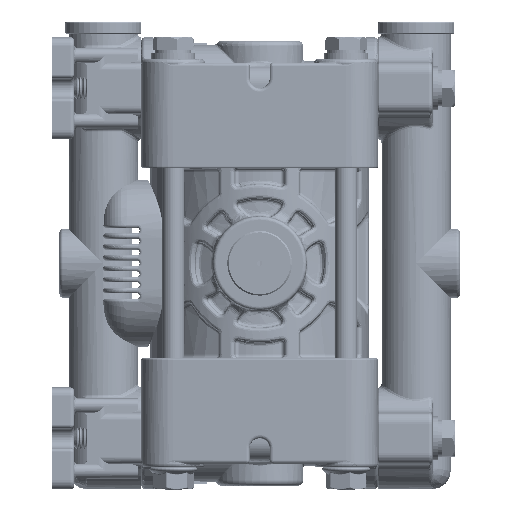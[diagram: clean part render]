
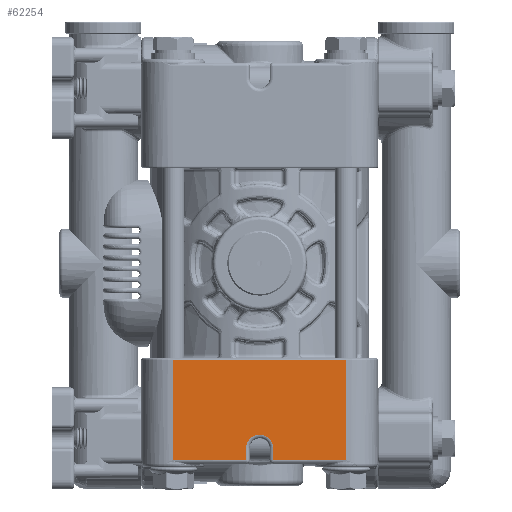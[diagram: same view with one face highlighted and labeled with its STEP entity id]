
A CAD part, left-side view. The second image highlights one B-rep face of the part: STEP entity #62254.
In plain terms, the highlighted planar face has unit normal (-1, 0, 0).
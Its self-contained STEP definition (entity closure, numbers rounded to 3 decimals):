
#1357 = EDGE_CURVE ( 'NONE', #75821, #175324, #36609, .T. ) ;
#1764 = CARTESIAN_POINT ( 'NONE',  ( -32.5, 3.75, -50.85 ) ) ;
#2046 = DIRECTION ( 'NONE',  ( 0., 0., -1. ) ) ;
#4058 = VERTEX_POINT ( 'NONE', #17253 ) ;
#7299 = CARTESIAN_POINT ( 'NONE',  ( -32.5, 0., -50.85 ) ) ;
#10914 = AXIS2_PLACEMENT_3D ( 'NONE', #7299, #79327, #156007 ) ;
#11989 = VECTOR ( 'NONE', #151347, 1000. ) ;
#17253 = CARTESIAN_POINT ( 'NONE',  ( -32.5, 23.75, -26.6 ) ) ;
#19094 = CARTESIAN_POINT ( 'NONE',  ( -32.5, -32.5, -61.1 ) ) ;
#19104 = AXIS2_PLACEMENT_3D ( 'NONE', #118960, #102723, #57633 ) ;
#23090 = EDGE_CURVE ( 'NONE', #157006, #189037, #83542, .T. ) ;
#26835 = DIRECTION ( 'NONE',  ( 0., 0., 1. ) ) ;
#30868 = ORIENTED_EDGE ( 'NONE', *, *, #139624, .T. ) ;
#31871 = LINE ( 'NONE', #135432, #90113 ) ;
#33908 = EDGE_CURVE ( 'NONE', #91472, #56805, #176366, .T. ) ;
#34428 = DIRECTION ( 'NONE',  ( 0., 0., 1. ) ) ;
#35374 = LINE ( 'NONE', #148608, #165968 ) ;
#36609 = LINE ( 'NONE', #82688, #93724 ) ;
#37044 = ORIENTED_EDGE ( 'NONE', *, *, #1357, .T. ) ;
#44199 = ORIENTED_EDGE ( 'NONE', *, *, #167784, .T. ) ;
#46208 = ORIENTED_EDGE ( 'NONE', *, *, #127460, .T. ) ;
#46918 = DIRECTION ( 'NONE',  ( 0., -1., 0. ) ) ;
#56805 = VERTEX_POINT ( 'NONE', #111607 ) ;
#56866 = VECTOR ( 'NONE', #2046, 1000. ) ;
#57633 = DIRECTION ( 'NONE',  ( 0., 0., 1. ) ) ;
#61974 = CIRCLE ( 'NONE', #19104, 3.75 ) ;
#62254 = ADVANCED_FACE ( 'NONE', ( #138001 ), #118870, .F. ) ;
#66039 = CARTESIAN_POINT ( 'NONE',  ( -32.5, -23.75, -26.6 ) ) ;
#73708 = CARTESIAN_POINT ( 'NONE',  ( -32.5, -3.75, -50.85 ) ) ;
#73829 = LINE ( 'NONE', #103550, #110872 ) ;
#75821 = VERTEX_POINT ( 'NONE', #149934 ) ;
#76613 = VERTEX_POINT ( 'NONE', #144700 ) ;
#79327 = DIRECTION ( 'NONE',  ( 1., 0., 0. ) ) ;
#80809 = DIRECTION ( 'NONE',  ( 0., -1., 0. ) ) ;
#82688 = CARTESIAN_POINT ( 'NONE',  ( -32.5, 2.75, -54.1 ) ) ;
#83542 = LINE ( 'NONE', #158324, #167676 ) ;
#90113 = VECTOR ( 'NONE', #121987, 1000. ) ;
#91472 = VERTEX_POINT ( 'NONE', #1764 ) ;
#92627 = ORIENTED_EDGE ( 'NONE', *, *, #33908, .T. ) ;
#93724 = VECTOR ( 'NONE', #80809, 1000. ) ;
#95823 = CARTESIAN_POINT ( 'NONE',  ( -32.5, -23.75, -54.1 ) ) ;
#102140 = ORIENTED_EDGE ( 'NONE', *, *, #132888, .T. ) ;
#102723 = DIRECTION ( 'NONE',  ( 1., 0., 0. ) ) ;
#102888 = VERTEX_POINT ( 'NONE', #73708 ) ;
#103550 = CARTESIAN_POINT ( 'NONE',  ( -32.5, -23.75, -54.1 ) ) ;
#110872 = VECTOR ( 'NONE', #46918, 1000. ) ;
#111607 = CARTESIAN_POINT ( 'NONE',  ( -32.5, 0., -47.1 ) ) ;
#114894 = ORIENTED_EDGE ( 'NONE', *, *, #176819, .T. ) ;
#115327 = LINE ( 'NONE', #119076, #56866 ) ;
#118870 = PLANE ( 'NONE',  #186375 ) ;
#118960 = CARTESIAN_POINT ( 'NONE',  ( -32.5, 0., -50.85 ) ) ;
#119076 = CARTESIAN_POINT ( 'NONE',  ( -32.5, 23.75, -61.1 ) ) ;
#121987 = DIRECTION ( 'NONE',  ( 0., 1., 0. ) ) ;
#127460 = EDGE_CURVE ( 'NONE', #76613, #157006, #73829, .T. ) ;
#130499 = EDGE_LOOP ( 'NONE', ( #176823, #114894, #102140, #37044, #148875, #92627, #44199, #30868, #46208 ) ) ;
#132888 = EDGE_CURVE ( 'NONE', #4058, #75821, #115327, .T. ) ;
#135432 = CARTESIAN_POINT ( 'NONE',  ( -32.5, -32.5, -26.6 ) ) ;
#138001 = FACE_OUTER_BOUND ( 'NONE', #130499, .T. ) ;
#139624 = EDGE_CURVE ( 'NONE', #102888, #76613, #182937, .T. ) ;
#142459 = EDGE_CURVE ( 'NONE', #175324, #91472, #35374, .T. ) ;
#144700 = CARTESIAN_POINT ( 'NONE',  ( -32.5, -3.75, -54.1 ) ) ;
#148608 = CARTESIAN_POINT ( 'NONE',  ( -32.5, 3.75, -61.1 ) ) ;
#148875 = ORIENTED_EDGE ( 'NONE', *, *, #142459, .T. ) ;
#149542 = DIRECTION ( 'NONE',  ( 1., 0., 0. ) ) ;
#149934 = CARTESIAN_POINT ( 'NONE',  ( -32.5, 23.75, -54.1 ) ) ;
#151347 = DIRECTION ( 'NONE',  ( 0., 0., -1. ) ) ;
#156007 = DIRECTION ( 'NONE',  ( 0., 0., 1. ) ) ;
#157006 = VERTEX_POINT ( 'NONE', #95823 ) ;
#158324 = CARTESIAN_POINT ( 'NONE',  ( -32.5, -23.75, -61.1 ) ) ;
#159783 = CARTESIAN_POINT ( 'NONE',  ( -32.5, 3.75, -54.1 ) ) ;
#164937 = DIRECTION ( 'NONE',  ( 0., 0., 1. ) ) ;
#165968 = VECTOR ( 'NONE', #164937, 1000. ) ;
#167676 = VECTOR ( 'NONE', #26835, 1000. ) ;
#167784 = EDGE_CURVE ( 'NONE', #56805, #102888, #61974, .T. ) ;
#168569 = CARTESIAN_POINT ( 'NONE',  ( -32.5, -3.75, -61.1 ) ) ;
#175324 = VERTEX_POINT ( 'NONE', #159783 ) ;
#176366 = CIRCLE ( 'NONE', #10914, 3.75 ) ;
#176819 = EDGE_CURVE ( 'NONE', #189037, #4058, #31871, .T. ) ;
#176823 = ORIENTED_EDGE ( 'NONE', *, *, #23090, .T. ) ;
#182937 = LINE ( 'NONE', #168569, #11989 ) ;
#186375 = AXIS2_PLACEMENT_3D ( 'NONE', #19094, #149542, #34428 ) ;
#189037 = VERTEX_POINT ( 'NONE', #66039 ) ;
